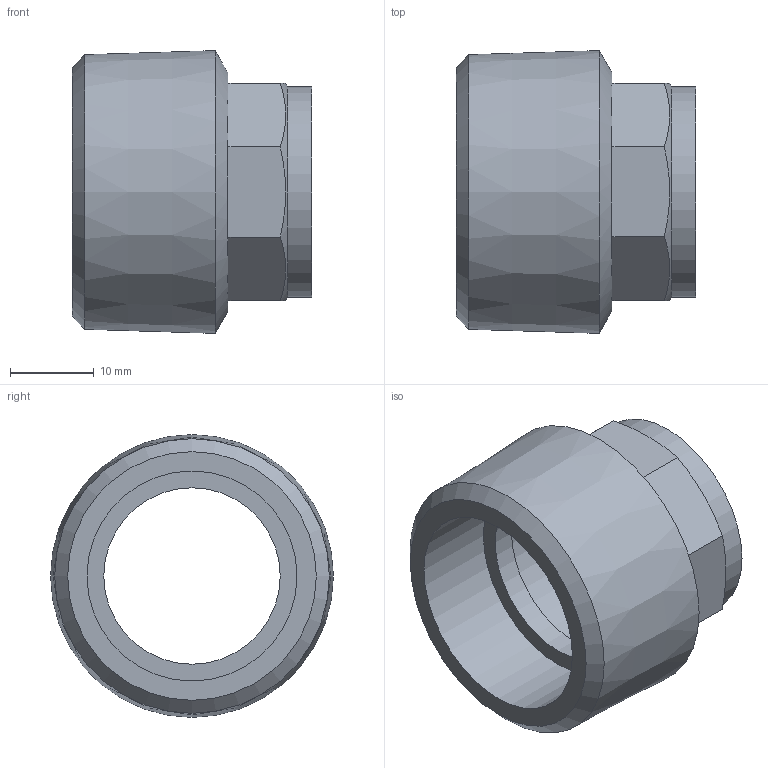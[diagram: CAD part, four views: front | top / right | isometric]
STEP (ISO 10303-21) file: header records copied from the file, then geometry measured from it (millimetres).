
FILE_DESCRIPTION((''),'2;1');
FILE_NAME('\\Lg50001\Groups\SANHA Legnica\Engineering\Public\RYSUNKI\SANHA POLSKA\4243G\step\14243_22-1(2).stp','2008-08-25T14:01:03',('pajchrowski'),(''),'Autodesk Inventor 2008','Autodesk Inventor 2008','');
FILE_SCHEMA(('AUTOMOTIVE_DESIGN { 1 0 10303 214 1 1 1 1 }'));
Length unit declared in the file: millimetre
Products named in the file (1): 14243_22-1(2)
Bounding box: 28.5 x 33.66 x 33.66 mm (x, y, z)
Volume: 9134.5 mm3; surface area: 5621.5 mm2
Topology: 1 solids, 1 shells, 21 faces, 46 edges, 30 vertices
Faces by surface type: plane 13, cone 4, cylinder 4
Full cylindrical faces by diameter (mm): 21 x1, 22.13 x1, 25 x1, 25.1 x1
Entity records: 540 total; most frequent: CARTESIAN_POINT 102, DIRECTION 84, ORIENTED_EDGE 72, EDGE_CURVE 36, AXIS2_PLACEMENT_3D 34, EDGE_LOOP 34, VERTEX_POINT 28, FACE_OUTER_BOUND 21
